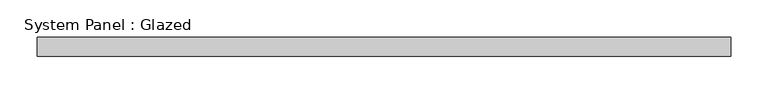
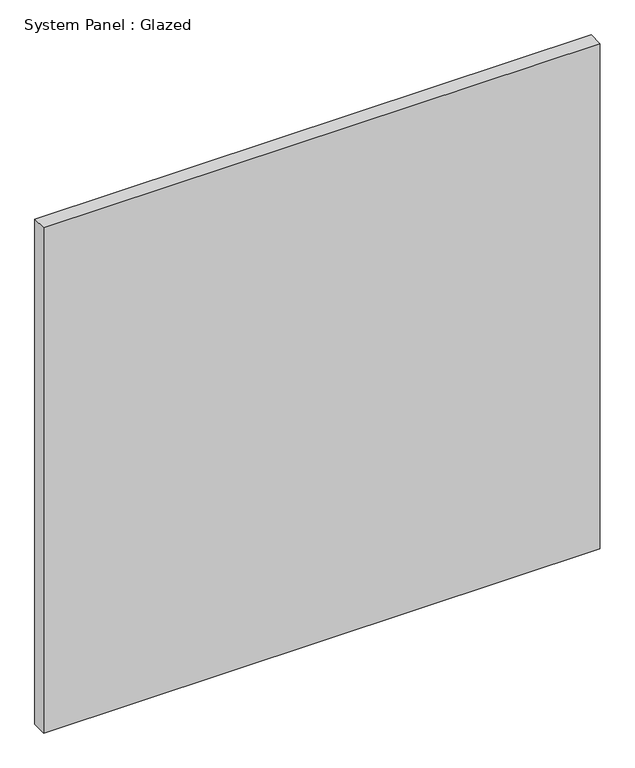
"""IFC4 building model written with IfcOpenShell, lengths in millimetres: plate geometry, System Panel : Glazed."""

from ifc_helpers import new_model, si_unit, origin, origin_with_axes, place, context, project, spatial, polyline, outline, extrude, source, transform, mapped, element, save


def system_panel_glazed_fdfe3bbe(model_context):
    return source(origin(), model_context, "Body", "SweptSolid", [
        extrude(outline(polyline([(462.9773698, 24.5), (-462.9773698, 24.5), (-462.9773698, 49.5), (462.9773698, 49.5), (462.9773698, 24.5)])), origin_with_axes(), (0.0, 0.0, 1.0), 888.2560116),
    ])


if __name__ == "__main__":
    model = new_model("IFC4")
    model_context = context("Model", 3, world=origin())
    ifc_project = project(units=[si_unit("LENGTHUNIT", "METRE", prefix="MILLI")], contexts=[model_context])
    site = spatial("IfcSite", under=ifc_project)
    building = spatial("IfcBuilding", under=site)
    placement = place(None, origin())
    system_panel_glazed_shape = system_panel_glazed_fdfe3bbe(model_context)
    element("IfcPlate", 1, ObjectType="System Panel : Glazed", at=placement, inside=building, context=model_context, shape_type="MappedRepresentation", body=[
        mapped(system_panel_glazed_shape, transform((0.0, 0.0, 0.0), x_axis=(1.0, 0.0, 0.0), y_axis=(0.0, 1.0, 0.0), z_axis=(0.0, 0.0, 1.0))),
    ])
    save(model, "model.ifc")
